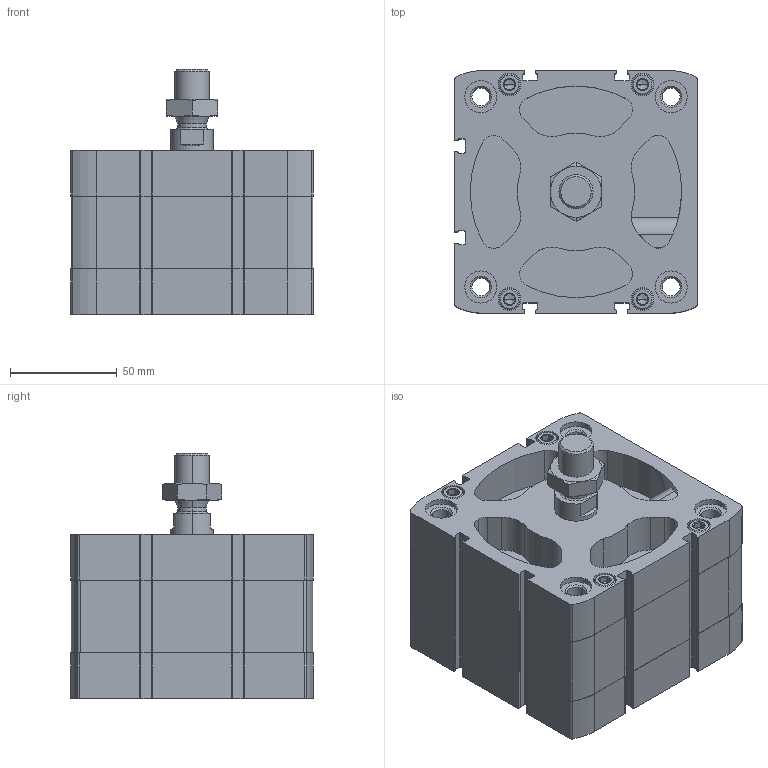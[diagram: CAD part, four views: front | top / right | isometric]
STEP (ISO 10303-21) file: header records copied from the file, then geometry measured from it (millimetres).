
FILE_DESCRIPTION (( 'STEP AP203' ), '1' );
FILE_NAME ('CCN100-10M.STEP', '2020-06-05T18:05:40', ( '' ), ( '' ), 'SwSTEP 2.0', 'SolidWorks 2019', '' );
FILE_SCHEMA (( 'CONFIG_CONTROL_DESIGN' ));
Length unit declared in the file: millimetre
Products named in the file (1): CCN100-10M
Bounding box: 113.5 x 113.5 x 114.8 mm (x, y, z)
Volume: 739172.6 mm3; surface area: 153575.2 mm2
Topology: 3 solids, 3 shells, 648 faces, 1673 edges, 1068 vertices
Faces by surface type: plane 292, cylinder 272, cone 80, torus 4
Entity records: 21246 total; most frequent: CARTESIAN_POINT 4984, DIRECTION 3541, ORIENTED_EDGE 3314, EDGE_CURVE 1657, AXIS2_PLACEMENT_3D 1319, VERTEX_POINT 1068, VECTOR 903, LINE 903
